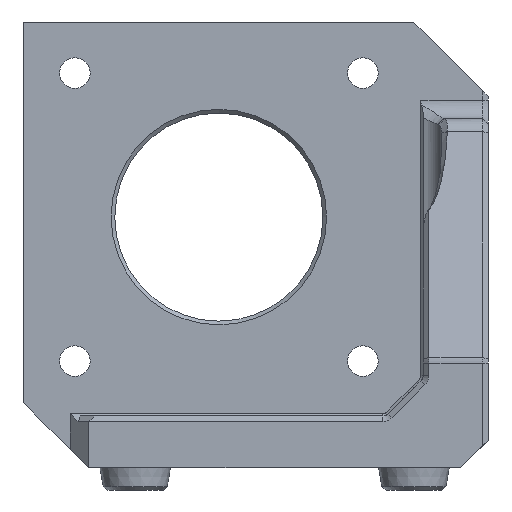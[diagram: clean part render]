
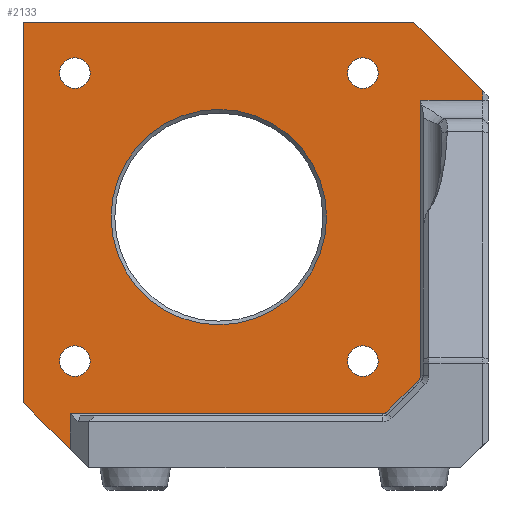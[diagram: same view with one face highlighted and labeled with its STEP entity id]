
A CAD part, front view. The second image highlights one B-rep face of the part: STEP entity #2133.
In plain terms, the highlighted planar face has unit normal (0, -1, 0).
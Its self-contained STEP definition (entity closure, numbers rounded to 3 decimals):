
#89=FACE_BOUND('',#391,.T.);
#90=FACE_BOUND('',#392,.T.);
#91=FACE_BOUND('',#393,.T.);
#92=FACE_BOUND('',#394,.T.);
#93=FACE_BOUND('',#395,.T.);
#135=PLANE('',#2311);
#261=FACE_OUTER_BOUND('',#390,.T.);
#390=EDGE_LOOP('',(#1741,#1742,#1743,#1744,#1745,#1746,#1747,#1748,#1749,
#1750,#1751,#1752));
#391=EDGE_LOOP('',(#1753));
#392=EDGE_LOOP('',(#1754));
#393=EDGE_LOOP('',(#1755));
#394=EDGE_LOOP('',(#1756));
#395=EDGE_LOOP('',(#1757));
#534=LINE('',#3710,#725);
#538=LINE('',#3719,#729);
#550=LINE('',#3748,#741);
#569=LINE('',#3807,#760);
#574=LINE('',#3822,#765);
#577=LINE('',#3831,#768);
#578=LINE('',#3833,#769);
#579=LINE('',#3835,#770);
#580=LINE('',#3837,#771);
#581=LINE('',#3838,#772);
#725=VECTOR('',#2613,10.);
#729=VECTOR('',#2621,2.);
#741=VECTOR('',#2649,10.);
#760=VECTOR('',#2714,10.);
#765=VECTOR('',#2729,10.);
#768=VECTOR('',#2740,10.);
#769=VECTOR('',#2741,10.);
#770=VECTOR('',#2742,10.);
#771=VECTOR('',#2743,10.);
#772=VECTOR('',#2744,10.);
#881=CIRCLE('',#2299,0.55);
#883=CIRCLE('',#2304,0.55);
#887=CIRCLE('',#2312,11.6);
#888=CIRCLE('',#2313,1.65);
#889=CIRCLE('',#2314,1.65);
#890=CIRCLE('',#2315,1.65);
#891=CIRCLE('',#2316,1.65);
#1011=VERTEX_POINT('',#3707);
#1012=VERTEX_POINT('',#3709);
#1015=VERTEX_POINT('',#3717);
#1023=VERTEX_POINT('',#3745);
#1024=VERTEX_POINT('',#3747);
#1037=VERTEX_POINT('',#3796);
#1041=VERTEX_POINT('',#3806);
#1043=VERTEX_POINT('',#3812);
#1048=VERTEX_POINT('',#3830);
#1049=VERTEX_POINT('',#3832);
#1050=VERTEX_POINT('',#3834);
#1051=VERTEX_POINT('',#3836);
#1052=VERTEX_POINT('',#3839);
#1053=VERTEX_POINT('',#3841);
#1054=VERTEX_POINT('',#3843);
#1055=VERTEX_POINT('',#3845);
#1056=VERTEX_POINT('',#3847);
#1246=EDGE_CURVE('',#1011,#1012,#534,.T.);
#1251=EDGE_CURVE('',#1015,#1011,#538,.T.);
#1265=EDGE_CURVE('',#1023,#1024,#550,.T.);
#1290=EDGE_CURVE('',#1012,#1037,#881,.T.);
#1295=EDGE_CURVE('',#1037,#1041,#569,.T.);
#1298=EDGE_CURVE('',#1041,#1043,#883,.T.);
#1303=EDGE_CURVE('',#1043,#1023,#574,.T.);
#1308=EDGE_CURVE('',#1048,#1015,#577,.T.);
#1309=EDGE_CURVE('',#1049,#1048,#578,.T.);
#1310=EDGE_CURVE('',#1049,#1050,#579,.T.);
#1311=EDGE_CURVE('',#1050,#1051,#580,.T.);
#1312=EDGE_CURVE('',#1024,#1051,#581,.T.);
#1313=EDGE_CURVE('',#1052,#1052,#887,.T.);
#1314=EDGE_CURVE('',#1053,#1053,#888,.T.);
#1315=EDGE_CURVE('',#1054,#1054,#889,.T.);
#1316=EDGE_CURVE('',#1055,#1055,#890,.T.);
#1317=EDGE_CURVE('',#1056,#1056,#891,.T.);
#1741=ORIENTED_EDGE('',*,*,#1265,.F.);
#1742=ORIENTED_EDGE('',*,*,#1303,.F.);
#1743=ORIENTED_EDGE('',*,*,#1298,.F.);
#1744=ORIENTED_EDGE('',*,*,#1295,.F.);
#1745=ORIENTED_EDGE('',*,*,#1290,.F.);
#1746=ORIENTED_EDGE('',*,*,#1246,.F.);
#1747=ORIENTED_EDGE('',*,*,#1251,.F.);
#1748=ORIENTED_EDGE('',*,*,#1308,.F.);
#1749=ORIENTED_EDGE('',*,*,#1309,.F.);
#1750=ORIENTED_EDGE('',*,*,#1310,.T.);
#1751=ORIENTED_EDGE('',*,*,#1311,.T.);
#1752=ORIENTED_EDGE('',*,*,#1312,.F.);
#1753=ORIENTED_EDGE('',*,*,#1313,.F.);
#1754=ORIENTED_EDGE('',*,*,#1314,.T.);
#1755=ORIENTED_EDGE('',*,*,#1315,.T.);
#1756=ORIENTED_EDGE('',*,*,#1316,.T.);
#1757=ORIENTED_EDGE('',*,*,#1317,.T.);
#2133=ADVANCED_FACE('',(#261,#89,#90,#91,#92,#93),#135,.T.);
#2299=AXIS2_PLACEMENT_3D('',#3797,#2704,#2705);
#2304=AXIS2_PLACEMENT_3D('',#3813,#2719,#2720);
#2311=AXIS2_PLACEMENT_3D('',#3829,#2738,#2739);
#2312=AXIS2_PLACEMENT_3D('',#3840,#2745,#2746);
#2313=AXIS2_PLACEMENT_3D('',#3842,#2747,#2748);
#2314=AXIS2_PLACEMENT_3D('',#3844,#2749,#2750);
#2315=AXIS2_PLACEMENT_3D('',#3846,#2751,#2752);
#2316=AXIS2_PLACEMENT_3D('',#3848,#2753,#2754);
#2613=DIRECTION('',(0.,0.,-1.));
#2621=DIRECTION('',(-1.,0.,0.));
#2649=DIRECTION('',(0.,0.,-1.));
#2704=DIRECTION('center_axis',(0.,1.,0.));
#2705=DIRECTION('ref_axis',(0.924,0.,-0.383));
#2714=DIRECTION('',(-0.707,0.,-0.707));
#2719=DIRECTION('center_axis',(0.,1.,0.));
#2720=DIRECTION('ref_axis',(0.383,0.,-0.924));
#2729=DIRECTION('',(-1.,0.,0.));
#2738=DIRECTION('center_axis',(0.,-1.,0.));
#2739=DIRECTION('ref_axis',(0.,0.,
1.));
#2740=DIRECTION('',(0.,0.,-1.));
#2741=DIRECTION('',(0.707,0.,-0.707));
#2742=DIRECTION('',(-1.,0.,0.));
#2743=DIRECTION('',(0.,0.,-1.));
#2744=DIRECTION('',(-0.707,0.,0.707));
#2745=DIRECTION('center_axis',(0.,-1.,0.));
#2746=DIRECTION('ref_axis',(1.,0.,0.));
#2747=DIRECTION('center_axis',(0.,1.,0.));
#2748=DIRECTION('ref_axis',(1.,0.,0.));
#2749=DIRECTION('center_axis',(0.,1.,0.));
#2750=DIRECTION('ref_axis',(1.,0.,0.));
#2751=DIRECTION('center_axis',(0.,1.,0.));
#2752=DIRECTION('ref_axis',(1.,0.,0.));
#2753=DIRECTION('center_axis',(0.,1.,0.));
#2754=DIRECTION('ref_axis',(1.,0.,0.));
#3707=CARTESIAN_POINT('',(-4.25,-31.3,82.448));
#3709=CARTESIAN_POINT('',(-4.25,-31.3,52.807));
#3710=CARTESIAN_POINT('',(-4.25,-31.3,56.475));
#3717=CARTESIAN_POINT('',(2.4,-31.3,82.448));
#3719=CARTESIAN_POINT('',(3.,-31.3,82.448));
#3745=CARTESIAN_POINT('',(-42.,-31.3,48.725));
#3747=CARTESIAN_POINT('',(-42.,-31.3,44.875));
#3748=CARTESIAN_POINT('',(-42.,-31.3,48.475));
#3796=CARTESIAN_POINT('',(-4.411,-31.3,52.418));
#3797=CARTESIAN_POINT('Origin',(-4.8,-31.3,52.807));
#3806=CARTESIAN_POINT('',(-7.942,-31.3,48.887));
#3807=CARTESIAN_POINT('',(-4.427,-31.3,52.402));
#3812=CARTESIAN_POINT('',(-8.331,-31.3,48.725));
#3813=CARTESIAN_POINT('Origin',(-8.331,-31.3,49.275));
#3822=CARTESIAN_POINT('',(3.,-31.3,48.725));
#3829=CARTESIAN_POINT('Origin',(3.,-31.3,48.475));
#3830=CARTESIAN_POINT('',(2.4,-31.3,83.475));
#3831=CARTESIAN_POINT('',(2.4,-31.3,57.675));
#3832=CARTESIAN_POINT('',(-5.,-31.3,90.875));
#3833=CARTESIAN_POINT('',(9.6,-31.3,76.275));
#3834=CARTESIAN_POINT('',(-47.,-31.3,90.875));
#3835=CARTESIAN_POINT('',(3.,-31.3,90.875));
#3836=CARTESIAN_POINT('',(-47.,-31.3,49.875));
#3837=CARTESIAN_POINT('',(-47.,-31.3,57.675));
#3838=CARTESIAN_POINT('',(-32.4,-31.3,35.275));
#3839=CARTESIAN_POINT('',(-37.6,-31.3,69.875));
#3840=CARTESIAN_POINT('Origin',(-26.,-31.3,69.875));
#3841=CARTESIAN_POINT('',(-12.15,-31.3,85.375));
#3842=CARTESIAN_POINT('Origin',(-10.5,-31.3,85.375));
#3843=CARTESIAN_POINT('',(-43.15,-31.3,85.375));
#3844=CARTESIAN_POINT('Origin',(-41.5,-31.3,85.375));
#3845=CARTESIAN_POINT('',(-12.15,-31.3,54.375));
#3846=CARTESIAN_POINT('Origin',(-10.5,-31.3,54.375));
#3847=CARTESIAN_POINT('',(-43.15,-31.3,54.375));
#3848=CARTESIAN_POINT('Origin',(-41.5,-31.3,54.375));
